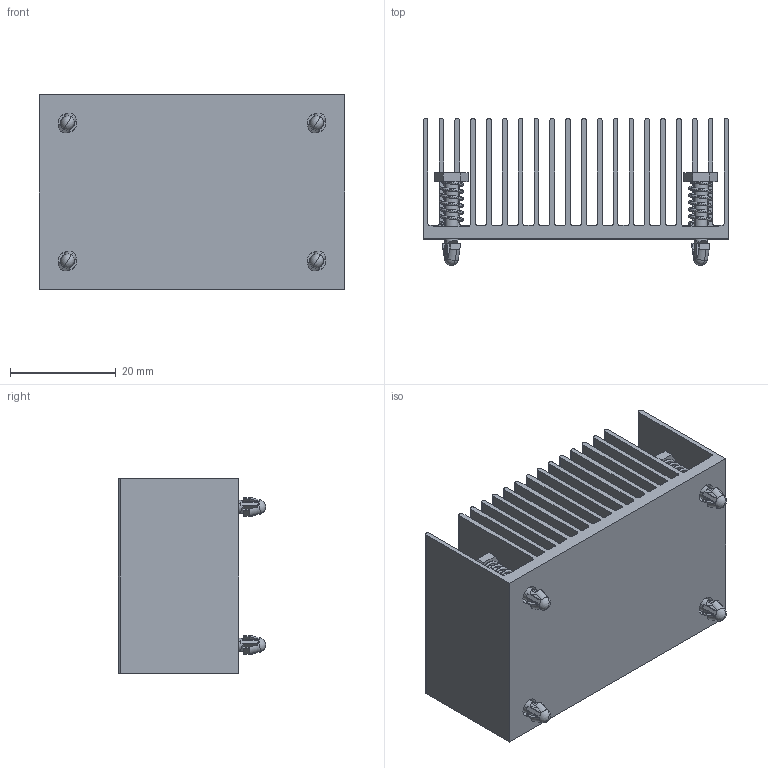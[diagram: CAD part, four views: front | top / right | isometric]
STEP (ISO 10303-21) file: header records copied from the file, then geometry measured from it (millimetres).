
FILE_DESCRIPTION (( 'STEP AP214' ), '1' );
FILE_NAME ('HS1574EBK01.STEP', '2023-03-03T16:27:33', ( '' ), ( '' ), 'SwSTEP 2.0', 'SolidWorks 2020', '' );
FILE_SCHEMA (( 'AUTOMOTIVE_DESIGN' ));
Length unit declared in the file: millimetre
Products named in the file (1): HS1574EBK01
Bounding box: 57.91 x 27.91 x 36.83 mm (x, y, z)
Volume: 17868.2 mm3; surface area: 33577.7 mm2
Topology: 5 solids, 5 shells, 380 faces, 1053 edges, 691 vertices
Faces by surface type: plane 202, cylinder 138, bspline 24, torus 8, cone 8
Entity records: 21357 total; most frequent: CARTESIAN_POINT 7653, ORIENTED_EDGE 2106, DIRECTION 1865, EDGE_CURVE 1053, VERTEX_POINT 691, AXIS2_PLACEMENT_3D 638, VECTOR 589, LINE 589
